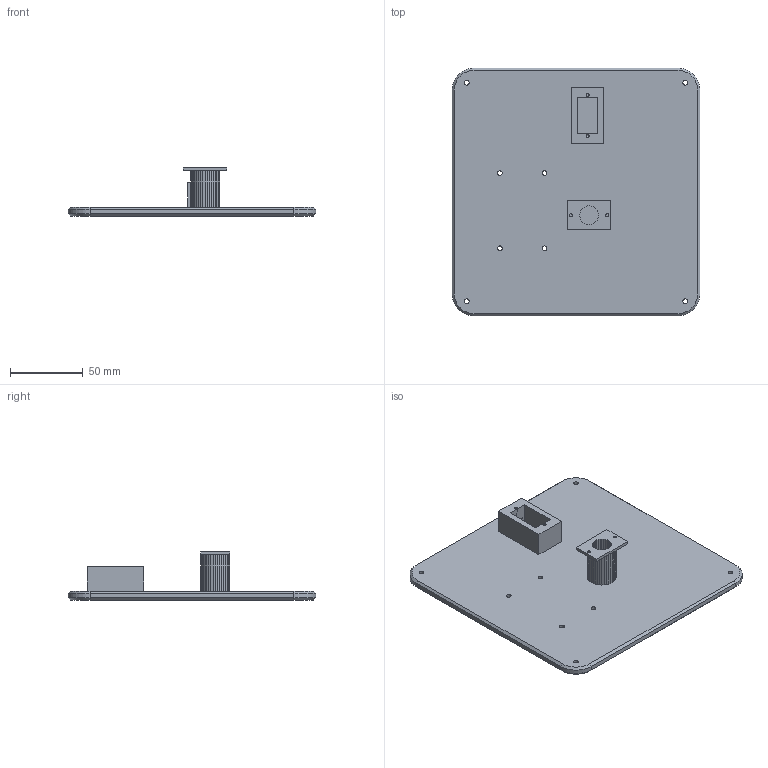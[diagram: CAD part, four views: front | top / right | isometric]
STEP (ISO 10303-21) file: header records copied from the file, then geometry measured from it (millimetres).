
FILE_DESCRIPTION(/* description */ ('STEP AP242 Edition 2','CAx-IF Rec.Pracs.---Representation and Presentation of Product Manufacturing Information (PMI)---4.0---2014-10-13','CAx-IF Rec.Pracs.---3D Tessellated Geometry---0.4---2014-09-14','2;1','CAx-IF Rec.Pracs.---User Defined Attributes---1.5---2016-08-15'),/* implementation_level */ '2;1');
FILE_NAME(/* name */ 'Tracker Assembly - Base',/* time_stamp */ '2026-10-25T15:06:34Z',/* author */ (''),/* organization */ (''),/* preprocessor_version */ 'ST-DEVELOPER v20',/* originating_system */ 'ONSHAPE BY PTC INC, 1.222',/* authorisation */ ' ');
FILE_SCHEMA (('AP242_MANAGED_MODEL_BASED_3D_ENGINEERING_MIM_LF { 1 0 10303 442 3 1 4 }'));
Length unit declared in the file: metre
Products named in the file (1): Base
Bounding box: 170 x 170 x 33 mm (x, y, z)
Volume: 184117.3 mm3; surface area: 67672.9 mm2
Topology: 1 solids, 3 shells, 253 faces, 632 edges, 390 vertices
Faces by surface type: plane 231, cylinder 14, cone 8
Full cylindrical faces by diameter (mm): 2.2 x2, 3.2 x8
Entity records: 7270 total; most frequent: CARTESIAN_POINT 1258, ORIENTED_EDGE 1236, DIRECTION 1162, EDGE_CURVE 618, LINE 582, VECTOR 582, VERTEX_POINT 386, EDGE_LOOP 292
